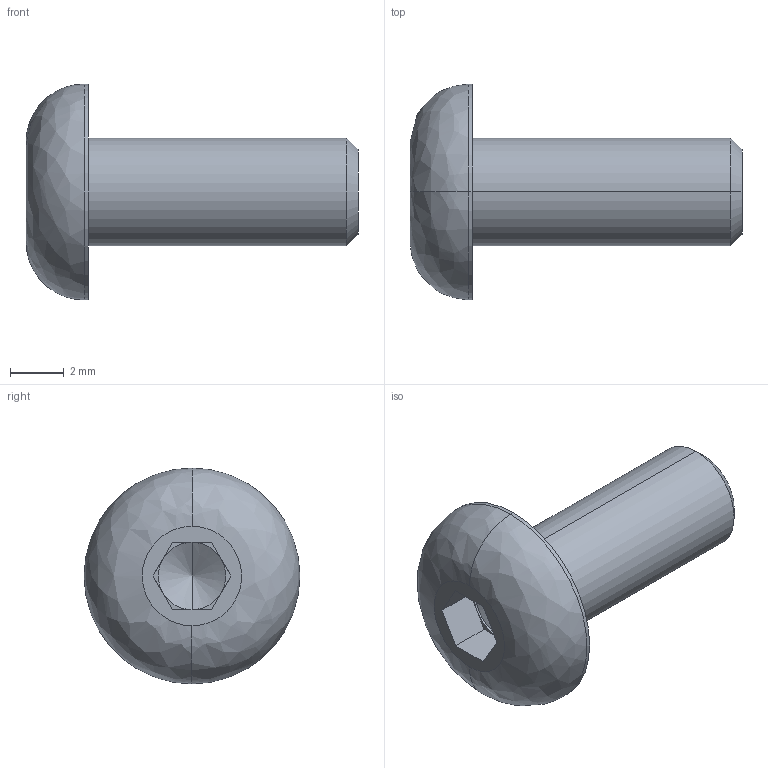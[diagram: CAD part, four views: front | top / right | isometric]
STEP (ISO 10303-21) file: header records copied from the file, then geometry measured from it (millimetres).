
FILE_DESCRIPTION (( 'STEP AP214' ), '1' );
FILE_NAME ('ISO7380_4x10.STEP', '2016-05-18T14:43:07', ( '' ), ( '' ), 'SwSTEP 2.0', 'SolidWorks 2014', '' );
FILE_SCHEMA (( 'AUTOMOTIVE_DESIGN' ));
Length unit declared in the file: millimetre
Products named in the file (1): ISO7380_4x10
Bounding box: 12.3 x 8 x 8 mm (x, y, z)
Volume: 208.4 mm3; surface area: 269.6 mm2
Topology: 1 solids, 1 shells, 27 faces, 59 edges, 34 vertices
Faces by surface type: plane 15, cylinder 6, cone 4, bspline 2
Entity records: 771 total; most frequent: CARTESIAN_POINT 158, DIRECTION 126, ORIENTED_EDGE 114, EDGE_CURVE 57, AXIS2_PLACEMENT_3D 46, LINE 34, VERTEX_POINT 34, VECTOR 34
